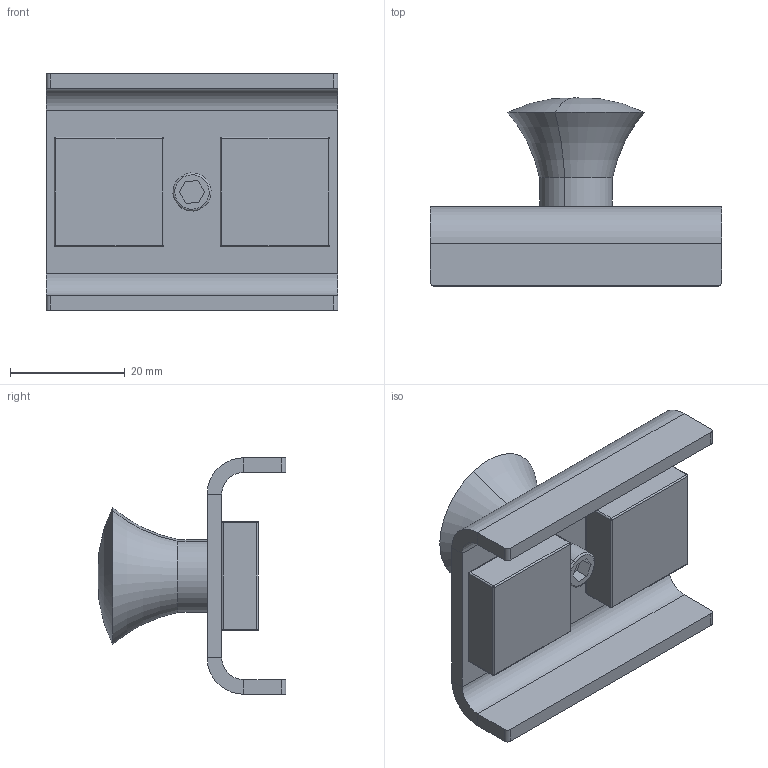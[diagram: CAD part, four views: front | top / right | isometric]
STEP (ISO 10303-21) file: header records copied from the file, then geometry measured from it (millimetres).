
FILE_DESCRIPTION (( 'STEP AP203' ), '1' );
FILE_NAME ('PH2101.STEP', '2018-07-09T14:39:40', ( '' ), ( '' ), 'SwSTEP 2.0', 'SolidWorks 2015', '' );
FILE_SCHEMA (( 'CONFIG_CONTROL_DESIGN' ));
Length unit declared in the file: inch
Products named in the file (1): PH2101
Bounding box: 50.8 x 32.7 x 41.15 mm (x, y, z)
Volume: 16317.7 mm3; surface area: 10916.2 mm2
Topology: 5 solids, 5 shells, 199 faces, 414 edges, 211 vertices
Faces by surface type: cylinder 74, cone 56, plane 43, sphere 16, torus 10
Entity records: 5085 total; most frequent: DIRECTION 988, CARTESIAN_POINT 807, ORIENTED_EDGE 792, EDGE_CURVE 396, AXIS2_PLACEMENT_3D 392, VERTEX_POINT 211, EDGE_LOOP 205, LINE 204
